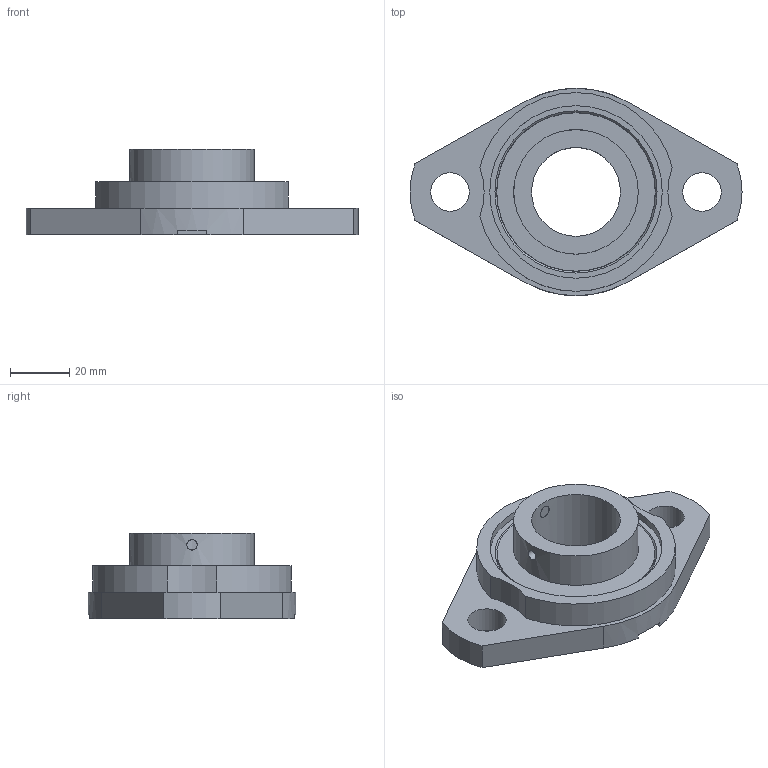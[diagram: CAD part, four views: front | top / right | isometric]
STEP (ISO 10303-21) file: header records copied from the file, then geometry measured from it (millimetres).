
FILE_DESCRIPTION((''),'2;1');
FILE_NAME('\\Ts-tgl068\j-cad-d-base\00.3DCADデータ作成フォルダ\11.エコシリーズ\MUSFL000\MUSFL006.stp','2014-11-12T09:41:45',('btec_1106_2'),(''),'Autodesk Inventor 2012','Autodesk Inventor 2012','');
FILE_SCHEMA(('AUTOMOTIVE_DESIGN { 1 0 10303 214 1 1 1 1 }'));
Length unit declared in the file: millimetre
Products named in the file (3): MUSFL000; SFL006; U006
Assembly tree (2 placements, depth 2):
  MUSFL000
    SFL006
    U006
Bounding box: 112 x 70 x 29 mm (x, y, z)
Volume: 61580.9 mm3; surface area: 24109.5 mm2
Topology: 2 solids, 2 shells, 74 faces, 189 edges, 124 vertices
Faces by surface type: plane 39, cylinder 30, cone 3, sphere 2
Full cylindrical faces by diameter (mm): 3.5 x1, 4.134 x1, 13 x2, 30 x1, 38 x1, 42 x1, 58.2 x1
Entity records: 2338 total; most frequent: CARTESIAN_POINT 497, DIRECTION 386, ORIENTED_EDGE 334, EDGE_CURVE 167, AXIS2_PLACEMENT_3D 146, VERTEX_POINT 117, EDGE_LOOP 104, VECTOR 94
